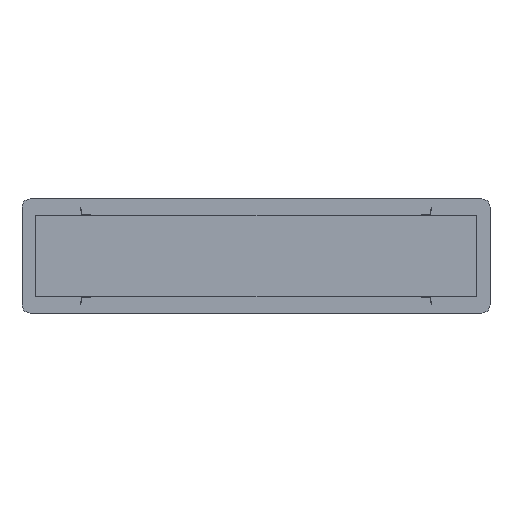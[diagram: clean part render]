
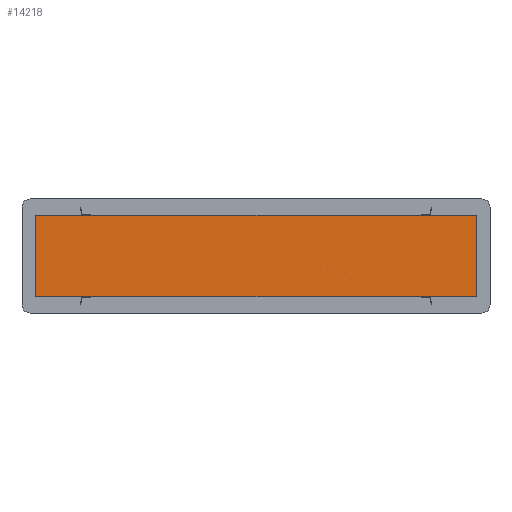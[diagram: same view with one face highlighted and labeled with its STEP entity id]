
A CAD part, front view. The second image highlights one B-rep face of the part: STEP entity #14218.
In plain terms, the highlighted planar face has unit normal (0, -1, 0).
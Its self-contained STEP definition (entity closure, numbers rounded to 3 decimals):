
#50 = CARTESIAN_POINT ( 'NONE',  ( -810., -416.5, -150. ) ) ;
#237 = CARTESIAN_POINT ( 'NONE',  ( 810., -416.5, -150. ) ) ;
#1083 = FACE_OUTER_BOUND ( 'NONE', #5673, .T. ) ;
#1253 = VERTEX_POINT ( 'NONE', #3350 ) ;
#1623 = LINE ( 'NONE', #6194, #14121 ) ;
#1886 = LINE ( 'NONE', #9096, #8700 ) ;
#2045 = CARTESIAN_POINT ( 'NONE',  ( -810., -416.5, -150. ) ) ;
#2265 = VERTEX_POINT ( 'NONE', #237 ) ;
#2469 = EDGE_CURVE ( 'NONE', #1253, #5146, #1886, .T. ) ;
#2578 = DIRECTION ( 'NONE',  ( 0., 0., -1. ) ) ;
#3350 = CARTESIAN_POINT ( 'NONE',  ( 810., -416.5, 150. ) ) ;
#3654 = EDGE_CURVE ( 'NONE', #5146, #4071, #7926, .T. ) ;
#3922 = AXIS2_PLACEMENT_3D ( 'NONE', #5960, #11846, #2578 ) ;
#4071 = VERTEX_POINT ( 'NONE', #50 ) ;
#5146 = VERTEX_POINT ( 'NONE', #5747 ) ;
#5673 = EDGE_LOOP ( 'NONE', ( #10929, #14326, #13077, #14387 ) ) ;
#5747 = CARTESIAN_POINT ( 'NONE',  ( -810., -416.5, 150. ) ) ;
#5960 = CARTESIAN_POINT ( 'NONE',  ( 0., -416.5, 0. ) ) ;
#6194 = CARTESIAN_POINT ( 'NONE',  ( 810., -416.5, -150. ) ) ;
#6317 = VECTOR ( 'NONE', #8676, 1000. ) ;
#7926 = LINE ( 'NONE', #2045, #11404 ) ;
#8514 = CARTESIAN_POINT ( 'NONE',  ( 810., -416.5, -150. ) ) ;
#8676 = DIRECTION ( 'NONE',  ( 1., 0., 0. ) ) ;
#8700 = VECTOR ( 'NONE', #10366, 1000. ) ;
#9028 = EDGE_CURVE ( 'NONE', #2265, #1253, #1623, .T. ) ;
#9096 = CARTESIAN_POINT ( 'NONE',  ( 810., -416.5, 150. ) ) ;
#9531 = EDGE_CURVE ( 'NONE', #4071, #2265, #13317, .T. ) ;
#10366 = DIRECTION ( 'NONE',  ( -1., 0., 0. ) ) ;
#10454 = DIRECTION ( 'NONE',  ( 0., 0., -1. ) ) ;
#10929 = ORIENTED_EDGE ( 'NONE', *, *, #3654, .T. ) ;
#11404 = VECTOR ( 'NONE', #10454, 1000. ) ;
#11846 = DIRECTION ( 'NONE',  ( 0., -1., 0. ) ) ;
#12160 = PLANE ( 'NONE',  #3922 ) ;
#12466 = DIRECTION ( 'NONE',  ( 0., 0., 1. ) ) ;
#13077 = ORIENTED_EDGE ( 'NONE', *, *, #9028, .T. ) ;
#13317 = LINE ( 'NONE', #8514, #6317 ) ;
#14121 = VECTOR ( 'NONE', #12466, 1000. ) ;
#14218 = ADVANCED_FACE ( 'NONE', ( #1083 ), #12160, .T. ) ;
#14326 = ORIENTED_EDGE ( 'NONE', *, *, #9531, .T. ) ;
#14387 = ORIENTED_EDGE ( 'NONE', *, *, #2469, .T. ) ;
